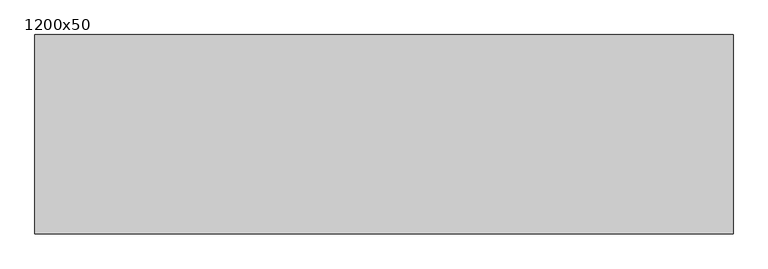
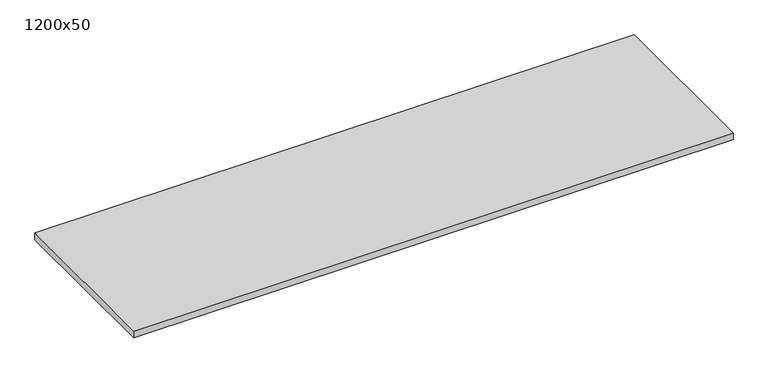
"""IFC4 building model written with IfcOpenShell, lengths in millimetres: beam geometry, Poutre - Bois d'oeuvre : 1200x50."""

from ifc_helpers import new_model, si_unit, frame, origin, place, context, project, spatial, polyline, outline, extrude, source, transform, mapped, element, save


def beam_1200x50_f424caa6(model_context):
    return source(origin(), model_context, "Body", "SweptSolid", [
        extrude(outline(polyline([(2100.0, 600.0), (2100.0, -600.0), (-2100.0, -600.0), (-2100.0, 600.0), (2100.0, 600.0)])), frame((0.0, 0.0, -25.0), z_axis=(0.0, 0.0, 1.0), x_axis=(1.0, 0.0, 0.0)), (0.0, 0.0, 1.0), 50.0),
    ])


if __name__ == "__main__":
    model = new_model("IFC4")
    model_context = context("Model", 3, world=origin())
    ifc_project = project(units=[si_unit("LENGTHUNIT", "METRE", prefix="MILLI")], contexts=[model_context])
    site = spatial("IfcSite", under=ifc_project)
    building = spatial("IfcBuilding", under=site)
    placement = place(None, origin())
    beam_1200x50_shape = beam_1200x50_f424caa6(model_context)
    element("IfcBeam", 1, ObjectType="Poutre - Bois d'oeuvre : 1200x50", at=placement, inside=building, context=model_context, shape_type="MappedRepresentation", body=[
        mapped(beam_1200x50_shape, transform((0.0, 0.0, 0.0), x_axis=(1.0, 0.0, 0.0), y_axis=(0.0, 1.0, 0.0), z_axis=(0.0, 0.0, 1.0))),
    ])
    save(model, "model.ifc")
